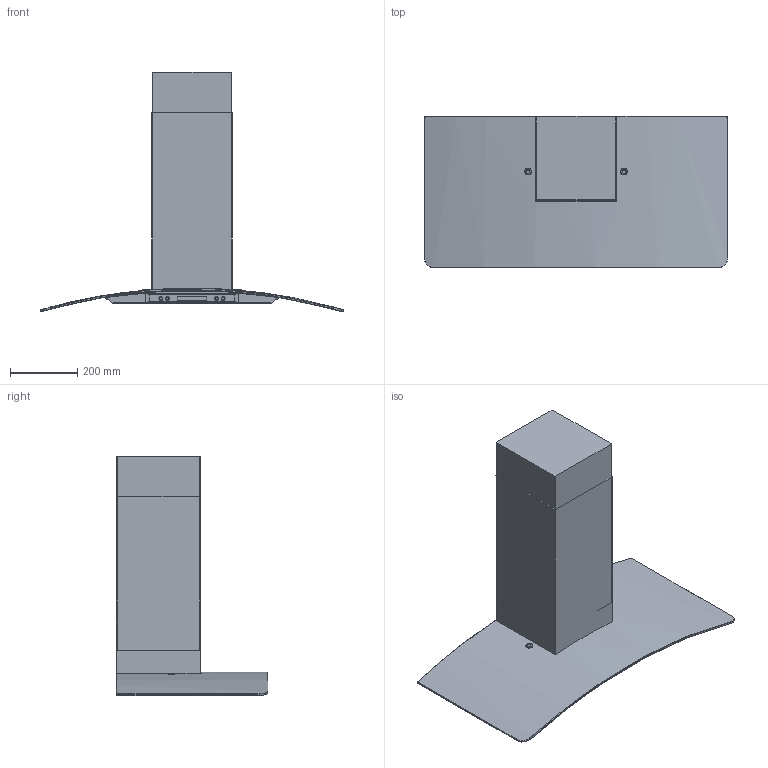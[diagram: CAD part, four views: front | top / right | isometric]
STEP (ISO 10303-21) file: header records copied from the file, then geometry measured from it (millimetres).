
FILE_DESCRIPTION(('STEP AP214'),'2;1');
FILE_NAME('Circus_Plus_2014_11_900.stp','2014-11-17T22:16:33',(''),(''),'2012.1.115','THINKDESIGN','');
FILE_SCHEMA(('AUTOMOTIVE_DESIGN'));
Length unit declared in the file: millimetre
Bounding box: 900.82 x 450.03 x 711.05 mm (x, y, z)
Volume: 73389929.4 mm3; surface area: 2865105.2 mm2
Topology: 22 solids, 22 shells, 591 faces, 1444 edges, 920 vertices
Faces by surface type: plane 238, cylinder 226, bspline 127
Full cylindrical faces by diameter (mm): 11.4 x4, 20 x2, 46 x4, 55 x4, 56.7 x2, 67.3 x2
Entity records: 31959 total; most frequent: CARTESIAN_POINT 12647, ORIENTED_EDGE 2846, DIRECTION 2844, EDGE_CURVE 1423, AXIS2_PLACEMENT_3D 1052, VERTEX_POINT 914, VECTOR 740, LINE 740
